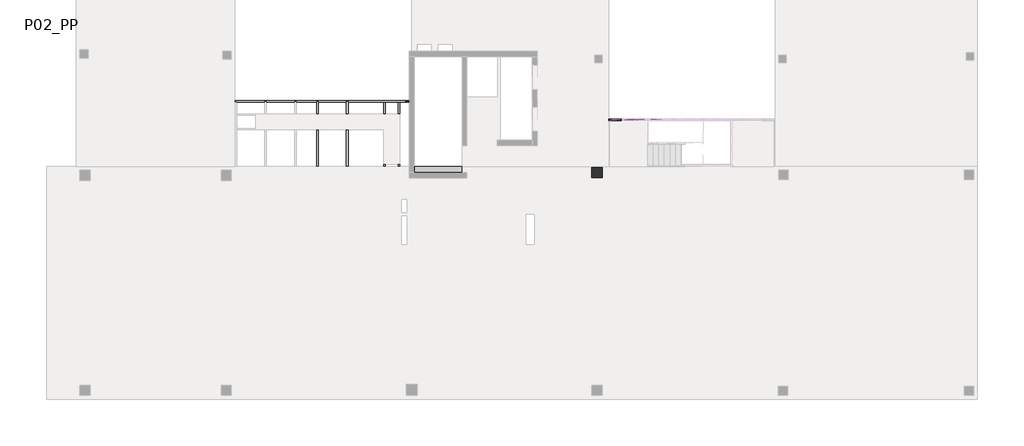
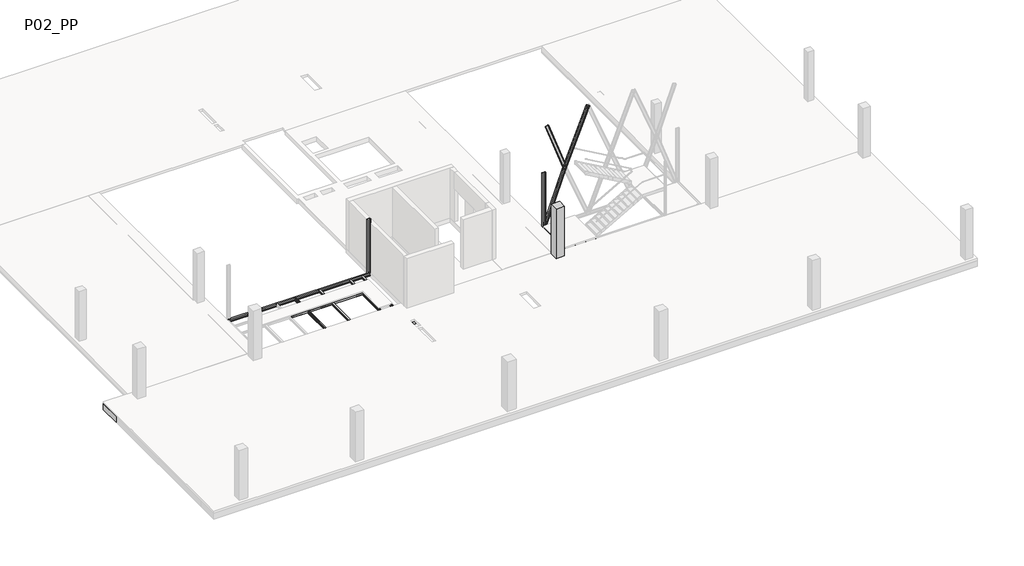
# One storey, part 2 of 7: 30 beams, 3 columns.
"""IFC4 building model written with IfcOpenShell, lengths in millimetres."""

from ifc_helpers import new_model, si_unit, frame, origin, place, context, project, spatial, polyline, circle_curve, ellipse_curve, outline, extrude, faceted_brep, transform, mapped, element, save
from ifc_brep_helpers import plane_surface, cylinder_surface, revolved_surface, advanced_brep
from components import ub_universal_beams_ipe_160x82_5295c27c, ub_universal_beams_ipe_200x100_3e5072df, ub_universal_beams_ipe_200x100_6cde27da, upn120x55_69f0bca1, upn120x55_efc8f615, upn120x55_2e91fe93, upn120x55_dd576345, upn200x75_a6df8eeb, upn_200x75_f929c6c0

model = new_model("IFC4")

# Units and contexts
model_context = context("Model", 3, world=origin())
ifc_project = project(units=[si_unit("LENGTHUNIT", "METRE", prefix="MILLI")], contexts=[model_context])

# Site, building, storey
site = spatial("IfcSite", under=ifc_project)
building = spatial("IfcBuilding", under=site)
storey = spatial("IfcBuildingStorey", under=building, Name="P02_PP", Elevation=14910.0)

# Beams
placement = place(None, origin())
element("IfcBeam", 1, ObjectType="M_Concrete-Rectangular Beam : 1500 x 550mm", at=placement, inside=storey, context=model_context, shape_type="Brep", body=[
    faceted_brep([(-10790.2146087, -4560.5861501, 14910.0), (-13390.3216429, -4560.5861501, 14910.0), (-13390.3216429, -4885.1039312, 14910.0), (-10790.2146087, -4885.1039312, 14910.0), (-33190.2931093, -6060.5861501, 14360.0), (-32490.2931093, -6060.5861501, 14360.0), (-31216.2708024, -6060.5861501, 14360.0), (-30816.2708024, -6060.5861501, 14360.0), (-29549.6041367, -6060.5861501, 14360.0), (-29149.6041367, -6060.5861501, 14360.0), (-27882.9374731, -6060.5861501, 14360.0), (-27482.9374731, -6060.5861501, 14360.0), (-26216.2708089, -6060.5861501, 14360.0), (-25816.2708089, -6060.5861501, 14360.0), (-24549.6041453, -6060.5861501, 14360.0), (-24149.6041453, -6060.5861501, 14360.0), (-22882.9374805, -6060.5861501, 14360.0), (-22482.9374805, -6060.5861501, 14360.0), (-21216.2708168, -6060.5861501, 14360.0), (-20816.2708168, -6060.5861501, 14360.0), (-19549.6041539, -6060.5861501, 14360.0), (-19149.6041539, -6060.5861501, 14360.0), (-17882.9374898, -6060.5861501, 14360.0), (-17482.9374898, -6060.5861501, 14360.0), (-16216.2708252, -6060.5861501, 14360.0), (-15816.2708252, -6060.5861501, 14360.0), (-14549.604161, -6060.5861501, 14360.0), (-14149.604161, -6060.5861501, 14360.0), (-12882.9374977, -6060.5861501, 14360.0), (-12482.9374977, -6060.5861501, 14360.0), (-11216.2708336, -6060.5861501, 14360.0), (-10816.2708336, -6060.5861501, 14360.0), (-9549.6041702, -6060.5861501, 14360.0), (-9149.6041702, -6060.5861501, 14360.0), (-7882.9375051, -6060.5861501, 14360.0), (-7482.9375051, -6060.5861501, 14360.0), (-6216.2708415, -6060.5861501, 14360.0), (-5816.2708415, -6060.5861501, 14360.0), (-4549.6041777, -6060.5861501, 14360.0), (-4149.6041777, -6060.5861501, 14360.0), (-2882.9375136, -6060.5861501, 14360.0), (-2482.9375136, -6060.5861501, 14360.0), (-1216.2708502, -6060.5861501, 14360.0), (-816.2708502, -6060.5861501, 14360.0), (450.3958139, -6060.5861501, 14360.0), (850.3958139, -6060.5861501, 14360.0), (2117.0624776, -6060.5861501, 14360.0), (2517.0624776, -6060.5861501, 14360.0), (3783.7291418, -6060.5861501, 14360.0), (4183.7291418, -6060.5861501, 14360.0), (5450.3958055, -6060.5861501, 14360.0), (5850.3958055, -6060.5861501, 14360.0), (7117.0624701, -6060.5861501, 14360.0), (7517.0624701, -6060.5861501, 14360.0), (8783.7291339, -6060.5861501, 14360.0), (9183.7291339, -6060.5861501, 14360.0), (10450.3957976, -6060.5861501, 14360.0), (10850.3957976, -6060.5861501, 14360.0), (12117.0624618, -6060.5861501, 14360.0), (12517.0624618, -6060.5861501, 14360.0), (13783.7291255, -6060.5861501, 14360.0), (14183.7291255, -6060.5861501, 14360.0), (15458.7687297, -6060.5861501, 14360.0), (15458.7687297, -6060.5861501, 14760.0), (14183.7291255, -6060.5861501, 14760.0), (13783.7291255, -6060.5861501, 14760.0), (12517.0624618, -6060.5861501, 14760.0), (12117.0624618, -6060.5861501, 14760.0), (10850.3957976, -6060.5861501, 14760.0), (10450.3957976, -6060.5861501, 14760.0), (9183.7291339, -6060.5861501, 14760.0), (8783.7291339, -6060.5861501, 14760.0), (7517.0624701, -6060.5861501, 14760.0), (7117.0624701, -6060.5861501, 14760.0), (5850.3958055, -6060.5861501, 14760.0), (5450.3958055, -6060.5861501, 14760.0), (4183.7291418, -6060.5861501, 14760.0), (3783.7291418, -6060.5861501, 14760.0), (2517.0624776, -6060.5861501, 14760.0), (2117.0624776, -6060.5861501, 14760.0), (850.3958139, -6060.5861501, 14760.0), (450.3958139, -6060.5861501, 14760.0), (-816.2708502, -6060.5861501, 14760.0), (-1216.2708502, -6060.5861501, 14760.0), (-2482.9375136, -6060.5861501, 14760.0), (-2882.9375136, -6060.5861501, 14760.0), (-4149.6041777, -6060.5861501, 14760.0), (-4549.6041777, -6060.5861501, 14760.0), (-5816.2708415, -6060.5861501, 14760.0), (-6216.2708415, -6060.5861501, 14760.0), (-7482.9375051, -6060.5861501, 14760.0), (-7882.9375051, -6060.5861501, 14760.0), (-9149.6041702, -6060.5861501, 14760.0), (-9549.6041702, -6060.5861501, 14760.0), (-10816.2708336, -6060.5861501, 14760.0), (-11216.2708336, -6060.5861501, 14760.0), (-12482.9374977, -6060.5861501, 14760.0), (-12882.9374977, -6060.5861501, 14760.0), (-14149.604161, -6060.5861501, 14760.0), (-14549.604161, -6060.5861501, 14760.0), (-15816.2708252, -6060.5861501, 14760.0), (-16216.2708252, -6060.5861501, 14760.0), (-17482.9374898, -6060.5861501, 14760.0), (-17882.9374898, -6060.5861501, 14760.0), (-19149.6041539, -6060.5861501, 14760.0), (-19549.6041539, -6060.5861501, 14760.0), (-20816.2708168, -6060.5861501, 14760.0), (-21216.2708168, -6060.5861501, 14760.0), (-22482.9374805, -6060.5861501, 14760.0), (-22882.9374805, -6060.5861501, 14760.0), (-24149.6041453, -6060.5861501, 14760.0), (-24549.6041453, -6060.5861501, 14760.0), (-25816.2708089, -6060.5861501, 14760.0), (-26216.2708089, -6060.5861501, 14760.0), (-27482.9374731, -6060.5861501, 14760.0), (-27882.9374731, -6060.5861501, 14760.0), (-29149.6041367, -6060.5861501, 14760.0), (-29549.6041367, -6060.5861501, 14760.0), (-30816.2708024, -6060.5861501, 14760.0), (-31216.2708024, -6060.5861501, 14760.0), (-32490.2931093, -6060.5861501, 14760.0), (-33190.2931093, -6060.5861501, 14760.0), (15458.7687297, -4560.5861501, 14360.0), (-33190.2931093, -4560.5861501, 14360.0), (-13640.3216429, -4560.5861501, 14360.0), (-13640.3216429, -5185.1039323, 14360.0), (-10540.3248425, -5185.1039323, 14360.0), (-10540.3248425, -4885.1039323, 14360.0), (-13390.3216429, -4885.1039323, 14360.0), (-13390.3216429, -4560.5861501, 14360.0), (-3266.6369021, -5185.398017, 14360.0), (-3266.636902, -4585.398017, 14360.0), (-3866.636902, -4585.3980169, 14360.0), (-3866.6369021, -5185.3980169, 14360.0), (-23241.1868439, -5360.5867081, 14360.0), (-23241.1868438, -4760.5867081, 14360.0), (-23841.1868438, -4760.5867081, 14360.0), (-23841.1868439, -5360.5867081, 14360.0), (-30791.2288146, -5360.5867093, 14360.0), (-30791.2288146, -4760.5867093, 14360.0), (-31391.2288146, -4760.5867093, 14360.0), (-31391.2288146, -5360.5867093, 14360.0), (6808.8308455, -5310.605447, 14360.0), (6808.8308456, -4760.605447, 14360.0), (6258.8308456, -4760.605447, 14360.0), (6258.8308455, -5310.605447, 14360.0), (-13390.3216429, -4560.5861501, 14610.0), (-13640.3216429, -4560.5861501, 14610.0), (-33190.2931093, -4560.5861501, 14760.0), (-13390.3216429, -4560.5861501, 14760.0), (-10790.2146087, -4560.5861501, 14760.0), (15458.7687297, -4560.5861501, 14760.0), (-3266.6369021, -5185.398017, 14610.0), (-3266.636902, -4585.398017, 14610.0), (-3866.6369021, -5185.3980169, 14610.0), (-3866.636902, -4585.3980169, 14610.0), (-23241.1868439, -5360.5867081, 14610.0), (-23241.1868438, -4760.5867081, 14610.0), (-23841.1868439, -5360.5867081, 14610.0), (-23841.1868438, -4760.5867081, 14610.0), (-30791.2288146, -5360.5867093, 14610.0), (-30791.2288146, -4760.5867093, 14610.0), (-31391.2288146, -5360.5867093, 14610.0), (-31391.2288146, -4760.5867093, 14610.0), (6808.8308455, -5310.605447, 14610.0), (6808.8308456, -4760.605447, 14610.0), (6258.8308455, -5310.605447, 14610.0), (6258.8308456, -4760.605447, 14610.0), (-10540.3248425, -4885.1039323, 14610.0), (-13390.3216429, -4885.1039323, 14610.0), (-13640.3216429, -5185.1039323, 14610.0), (-10540.3248425, -5185.1039323, 14610.0), (-13640.3216429, -4885.1039323, 14610.0), (-13390.3216429, -4885.1039312, 14760.0), (-10790.2146087, -4885.1039312, 14760.0)], [[[0, 1, 2, 3]], [[4, 5, 6, 7, 8, 9, 10, 11, 12, 13, 14, 15, 16, 17, 18, 19, 20, 21, 22, 23, 24, 25, 26, 27, 28, 29, 30, 31, 32, 33, 34, 35, 36, 37, 38, 39, 40, 41, 42, 43, 44, 45, 46, 47, 48, 49, 50, 51, 52, 53, 54, 55, 56, 57, 58, 59, 60, 61, 62, 63, 64, 65, 66, 67, 68, 69, 70, 71, 72, 73, 74, 75, 76, 77, 78, 79, 80, 81, 82, 83, 84, 85, 86, 87, 88, 89, 90, 91, 92, 93, 94, 95, 96, 97, 98, 99, 100, 101, 102, 103, 104, 105, 106, 107, 108, 109, 110, 111, 112, 113, 114, 115, 116, 117, 118, 119, 120, 121]], [[122, 62, 61, 60, 59, 58, 57, 56, 55, 54, 53, 52, 51, 50, 49, 48, 47, 46, 45, 44, 43, 42, 41, 40, 39, 38, 37, 36, 35, 34, 33, 32, 31, 30, 29, 28, 27, 26, 25, 24, 23, 22, 21, 20, 19, 18, 17, 16, 15, 14, 13, 12, 11, 10, 9, 8, 7, 6, 5, 4, 123, 124, 125, 126, 127, 128, 129], [130, 131, 132, 133], [134, 135, 136, 137], [138, 139, 140, 141], [142, 143, 144, 145]], [[122, 129, 146, 147, 124, 123, 148, 149, 1, 0, 150, 151]], [[62, 122, 151, 63]], [[123, 4, 121, 148]], [[152, 153, 131, 130]], [[154, 152, 130, 133]], [[155, 154, 133, 132]], [[153, 155, 132, 131]], [[153, 152, 154, 155]], [[156, 157, 135, 134]], [[158, 156, 134, 137]], [[159, 158, 137, 136]], [[157, 159, 136, 135]], [[157, 156, 158, 159]], [[160, 161, 139, 138]], [[162, 160, 138, 141]], [[163, 162, 141, 140]], [[161, 163, 140, 139]], [[161, 160, 162, 163]], [[164, 165, 143, 142]], [[166, 164, 142, 145]], [[167, 166, 145, 144]], [[165, 167, 144, 143]], [[165, 164, 166, 167]], [[127, 168, 169, 128]], [[170, 171, 126, 125]], [[171, 170, 172, 147, 146, 169, 168]], [[171, 168, 127, 126]], [[170, 125, 124, 147, 172]], [[169, 146, 129, 128]], [[173, 149, 148, 121, 120, 119, 118, 117, 116, 115, 114, 113, 112, 111, 110, 109, 108, 107, 106, 105, 104, 103, 102, 101, 100, 99, 98, 97, 96, 95, 94, 93, 92, 91, 90, 89, 88, 87, 86, 85, 84, 83, 82, 81, 80, 79, 78, 77, 76, 75, 74, 73, 72, 71, 70, 69, 68, 67, 66, 65, 64, 63, 151, 150, 174]], [[174, 150, 0, 3]], [[149, 173, 2, 1]], [[173, 174, 3, 2]]]),
])
element("IfcBeam", 2, ObjectType="M_Concrete-Rectangular Beam : 400 x 550mm", at=placement, inside=storey, context=model_context, shape_type="SweptSolid", body=[
    extrude(outline(polyline([(-14149.604161, -15610.5871866), (-14549.604161, -15610.5871866), (-14549.604161, -6060.5861501), (-14149.604161, -6060.5861501), (-14149.604161, -15610.5871866)])), frame((0.0, 0.0, 14360.0), z_axis=(0.0, 0.0, 1.0), x_axis=(1.0, 0.0, 0.0)), (0.0, 0.0, 1.0), 400.0),
])
element("IfcBeam", 3, ObjectType="M_Concrete-Rectangular Beam : 400 x 550mm", at=placement, inside=storey, context=model_context, shape_type="SweptSolid", body=[
    extrude(outline(polyline([(-12482.9374977, -15610.5871866), (-12882.9374977, -15610.5871866), (-12882.9374977, -6060.5861501), (-12482.9374977, -6060.5861501), (-12482.9374977, -15610.5871866)])), frame((0.0, 0.0, 14360.0), z_axis=(0.0, 0.0, 1.0), x_axis=(1.0, 0.0, 0.0)), (0.0, 0.0, 1.0), 400.0),
])
element("IfcBeam", 4, ObjectType="M_Concrete-Rectangular Beam : 400 x 550mm", at=placement, inside=storey, context=model_context, shape_type="SweptSolid", body=[
    extrude(outline(polyline([(-10816.2708336, -15610.5871866), (-11216.2708336, -15610.5871866), (-11216.2708336, -6060.5861501), (-10816.2708336, -6060.5861501), (-10816.2708336, -15610.5871866)])), frame((0.0, 0.0, 14360.0), z_axis=(0.0, 0.0, 1.0), x_axis=(1.0, 0.0, 0.0)), (0.0, 0.0, 1.0), 400.0),
])
element("IfcBeam", 5, ObjectType="M_Concrete-Rectangular Beam : 400 x 550mm", at=placement, inside=storey, context=model_context, shape_type="SweptSolid", body=[
    extrude(outline(polyline([(-9149.6041702, -15610.5871866), (-9549.6041702, -15610.5871866), (-9549.6041702, -6060.5861501), (-9149.6041702, -6060.5861501), (-9149.6041702, -15610.5871866)])), frame((0.0, 0.0, 14360.0), z_axis=(0.0, 0.0, 1.0), x_axis=(1.0, 0.0, 0.0)), (0.0, 0.0, 1.0), 400.0),
])
element("IfcBeam", 6, ObjectType="M_Concrete-Rectangular Beam : 400 x 550mm", at=placement, inside=storey, context=model_context, shape_type="SweptSolid", body=[
    extrude(outline(polyline([(-7482.9375051, -15610.5871866), (-7882.9375051, -15610.5871866), (-7882.9375051, -6060.5861501), (-7482.9375051, -6060.5861501), (-7482.9375051, -15610.5871866)])), frame((0.0, 0.0, 14360.0), z_axis=(0.0, 0.0, 1.0), x_axis=(1.0, 0.0, 0.0)), (0.0, 0.0, 1.0), 400.0),
])
element("IfcBeam", 7, ObjectType="M_Concrete-Rectangular Beam : 400 x 550mm", at=placement, inside=storey, context=model_context, shape_type="SweptSolid", body=[
    extrude(outline(polyline([(-5816.2708415, -15610.5871866), (-6216.2708415, -15610.5871866), (-6216.2708415, -6060.5861501), (-5816.2708415, -6060.5861501), (-5816.2708415, -15610.5871866)])), frame((0.0, 0.0, 14360.0), z_axis=(0.0, 0.0, 1.0), x_axis=(1.0, 0.0, 0.0)), (0.0, 0.0, 1.0), 400.0),
])
element("IfcBeam", 8, ObjectType="M_Concrete-Rectangular Beam : 400 x 550mm", at=placement, inside=storey, context=model_context, shape_type="SweptSolid", body=[
    extrude(outline(polyline([(-4149.6041777, -15610.5871866), (-4549.6041777, -15610.5871866), (-4549.6041777, -6060.5861501), (-4149.6041777, -6060.5861501), (-4149.6041777, -15610.5871866)])), frame((0.0, 0.0, 14360.0), z_axis=(0.0, 0.0, 1.0), x_axis=(1.0, 0.0, 0.0)), (0.0, 0.0, 1.0), 400.0),
])
element("IfcBeam", 9, ObjectType="M_Concrete-Rectangular Beam : 400 x 550mm", at=placement, inside=storey, context=model_context, shape_type="SweptSolid", body=[
    extrude(outline(polyline([(-2482.9375136, -15610.5871866), (-2882.9375136, -15610.5871866), (-2882.9375136, -6060.5861501), (-2482.9375136, -6060.5861501), (-2482.9375136, -15610.5871866)])), frame((0.0, 0.0, 14360.0), z_axis=(0.0, 0.0, 1.0), x_axis=(1.0, 0.0, 0.0)), (0.0, 0.0, 1.0), 400.0),
])
element("IfcBeam", 10, ObjectType="M_Concrete-Rectangular Beam : 400 x 550mm", at=placement, inside=storey, context=model_context, shape_type="SweptSolid", body=[
    extrude(outline(polyline([(-816.2708502, -15610.5871866), (-1216.2708502, -15610.5871866), (-1216.2708502, -6060.5861501), (-816.2708502, -6060.5861501), (-816.2708502, -15610.5871866)])), frame((0.0, 0.0, 14360.0), z_axis=(0.0, 0.0, 1.0), x_axis=(1.0, 0.0, 0.0)), (0.0, 0.0, 1.0), 400.0),
])
ub_universal_beams_ipe_160x82_shape = ub_universal_beams_ipe_160x82_5295c27c(model_context)
element("IfcBeam", 11, ObjectType="UB-Universal Beams : IPE 160x82", at=placement, inside=storey, context=model_context, shape_type="MappedRepresentation", body=[
    mapped(ub_universal_beams_ipe_160x82_shape, transform((-14190.4459331, -3192.6367352, 14830.0), x_axis=(0.0, 1.0, 0.0), y_axis=(-1.0, 0.0, 0.0), z_axis=(0.0, 0.0, 1.0))),
])
element("IfcBeam", 12, ObjectType="UB-Universal Beams : IPE 160x82", at=placement, inside=storey, context=model_context, shape_type="MappedRepresentation", body=[
    mapped(ub_universal_beams_ipe_160x82_shape, transform((-14990.4459326, -3192.6367225, 14830.0), x_axis=(0.0, 1.0, 0.0), y_axis=(-1.0, 0.0, 0.0), z_axis=(0.0, 0.0, 1.0))),
])
element("IfcBeam", 13, ObjectType="UB-Universal Beams : IPE 160x82", at=placement, inside=storey, context=model_context, shape_type="MappedRepresentation", body=[
    mapped(ub_universal_beams_ipe_160x82_shape, transform((-16990.4459316, -3192.6366908, 14830.0), x_axis=(0.0, 1.0, 0.0), y_axis=(-1.0, 0.0, 0.0), z_axis=(0.0, 0.0, 1.0))),
])
element("IfcBeam", 14, ObjectType="UB-Universal Beams : IPE 160x82", at=placement, inside=storey, context=model_context, shape_type="MappedRepresentation", body=[
    mapped(ub_universal_beams_ipe_160x82_shape, transform((-18590.4459308, -3192.6366654, 14830.0), x_axis=(0.0, 1.0, 0.0), y_axis=(-1.0, 0.0, 0.0), z_axis=(0.0, 0.0, 1.0))),
])
ub_universal_beams_ipe_200x100_shape = ub_universal_beams_ipe_200x100_3e5072df(model_context)
element("IfcBeam", 15, ObjectType="UB-Universal Beams : IPE 200x100", at=placement, inside=storey, context=model_context, shape_type="MappedRepresentation", body=[
    mapped(ub_universal_beams_ipe_200x100_shape, transform((-2811.4958562, -3692.7091099, 14810.0), x_axis=(0.0, 1.0, 0.0), y_axis=(-1.0, 0.0, 0.0), z_axis=(0.0, 0.0, 1.0))),
])
ub_universal_beams_ipe_200x100_2_shape = ub_universal_beams_ipe_200x100_6cde27da(model_context)
element("IfcBeam", 16, ObjectType="UB-Universal Beams : IPE 200x100", at=placement, inside=storey, context=model_context, shape_type="MappedRepresentation", body=[
    mapped(ub_universal_beams_ipe_200x100_2_shape, transform((-861.4958562, -3698.1725705, 14810.0), x_axis=(0.0, 1.0, 0.0), y_axis=(-1.0, 0.0, 0.0), z_axis=(0.0, 0.0, 1.0))),
])
element("IfcBeam", 17, ObjectType="UB-Universal Beams : IPE 200x100", at=placement, inside=storey, context=model_context, shape_type="MappedRepresentation", body=[
    mapped(ub_universal_beams_ipe_200x100_2_shape, transform((-1511.4958562, -3698.1725705, 14810.0), x_axis=(0.0, 1.0, 0.0), y_axis=(-1.0, 0.0, 0.0), z_axis=(0.0, 0.0, 1.0))),
])
element("IfcBeam", 18, ObjectType="UB-Universal Beams : IPE 200x100", at=placement, inside=storey, context=model_context, shape_type="MappedRepresentation", body=[
    mapped(ub_universal_beams_ipe_200x100_2_shape, transform((-2161.4958562, -3698.1725705, 14810.0), x_axis=(0.0, 1.0, 0.0), y_axis=(-1.0, 0.0, 0.0), z_axis=(0.0, 0.0, 1.0))),
])
upn120x55_shape = upn120x55_69f0bca1(model_context)
element("IfcBeam", 19, ObjectType="M_MC Shapes : UPN120x55", at=placement, inside=storey, context=model_context, shape_type="MappedRepresentation", body=[
    mapped(upn120x55_shape, transform((-14590.4459328, -1772.1875003, 14850.0), x_axis=(0.9999999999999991, -4.319868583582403e-08, 0.0), y_axis=(4.319868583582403e-08, 0.9999999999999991, 0.0), z_axis=(0.0, 0.0, 1.0))),
])
element("IfcBeam", 20, ObjectType="M_MC Shapes : UPN120x55", at=placement, inside=storey, context=model_context, shape_type="MappedRepresentation", body=[
    mapped(upn120x55_shape, transform((-14590.4459328, -2572.1874803, 14850.0), x_axis=(0.9999999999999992, -4.0441322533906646e-08, 0.0), y_axis=(4.0441322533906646e-08, 0.9999999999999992, 0.0), z_axis=(0.0, 0.0, 1.0))),
])
upn120x55_2_shape = upn120x55_efc8f615(model_context)
element("IfcBeam", 21, ObjectType="M_MC Shapes : UPN120x55", at=placement, inside=storey, context=model_context, shape_type="MappedRepresentation", body=[
    mapped(upn120x55_2_shape, transform((-15990.4459321, -2572.1874237, 14850.0), x_axis=(0.9999999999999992, -4.0441322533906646e-08, 0.0), y_axis=(4.0441322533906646e-08, 0.9999999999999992, 0.0), z_axis=(0.0, 0.0, 1.0))),
])
element("IfcBeam", 22, ObjectType="M_MC Shapes : UPN120x55", at=placement, inside=storey, context=model_context, shape_type="MappedRepresentation", body=[
    mapped(upn120x55_2_shape, transform((-15990.4459321, -1772.1874398, 14850.0), x_axis=(0.9999999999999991, -4.319868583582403e-08, 0.0), y_axis=(4.319868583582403e-08, 0.9999999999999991, 0.0), z_axis=(0.0, 0.0, 1.0))),
])
upn120x55_3_shape = upn120x55_2e91fe93(model_context)
element("IfcBeam", 23, ObjectType="M_MC Shapes : UPN120x55", at=placement, inside=storey, context=model_context, shape_type="MappedRepresentation", body=[
    mapped(upn120x55_3_shape, transform((-17790.4459312, -2572.1873509, 14850.0), x_axis=(0.9999999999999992, -4.0441322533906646e-08, 0.0), y_axis=(4.0441322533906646e-08, 0.9999999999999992, 0.0), z_axis=(0.0, 0.0, 1.0))),
])
element("IfcBeam", 24, ObjectType="M_MC Shapes : UPN120x55", at=placement, inside=storey, context=model_context, shape_type="MappedRepresentation", body=[
    mapped(upn120x55_3_shape, transform((-17790.4459312, -1772.1873621, 14850.0), x_axis=(0.9999999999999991, -4.319868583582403e-08, 0.0), y_axis=(4.319868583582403e-08, 0.9999999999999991, 0.0), z_axis=(0.0, 0.0, 1.0))),
])
upn120x55_4_shape = upn120x55_dd576345(model_context)
element("IfcBeam", 25, ObjectType="M_MC Shapes : UPN120x55", at=placement, inside=storey, context=model_context, shape_type="MappedRepresentation", body=[
    mapped(upn120x55_4_shape, transform((-19190.4459311, -2572.1872943, 14850.0), x_axis=(0.9999999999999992, -4.0441322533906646e-08, 0.0), y_axis=(4.0441322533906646e-08, 0.9999999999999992, 0.0), z_axis=(0.0, 0.0, 1.0))),
])
element("IfcBeam", 26, ObjectType="M_MC Shapes : UPN120x55", at=placement, inside=storey, context=model_context, shape_type="MappedRepresentation", body=[
    mapped(upn120x55_4_shape, transform((-19190.4459311, -1772.1873016, 14850.0), x_axis=(0.9999999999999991, -4.319868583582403e-08, 0.0), y_axis=(4.319868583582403e-08, 0.9999999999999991, 0.0), z_axis=(0.0, 0.0, 1.0))),
])
element("IfcBeam", 27, ObjectType="M_MC Shapes : UPN200x75", at=placement, inside=storey, context=model_context, shape_type="AdvancedBrep", body=[
    advanced_brep(
    [(164.370929, -1999.8318874, 22272.8267726), (-21.3244092, -1999.8318816, 22347.1049079), (-21.3244115, -2074.8318816, 22347.1049079), (-20.4194482, -2074.8318816, 22346.7429226), (-16.8018654, -2071.531259, 22345.2958895), (-7.4322566, -2010.9831275, 22341.5480467), (-0.1970911, -2004.3818823, 22338.6539806), (143.2436106, -2004.3818867, 22281.2776999), (150.4787758, -2010.9831324, 22278.3836338), (159.8483808, -2071.5312645, 22274.635791), (163.4659634, -2074.8318874, 22273.1887579), (164.3709267, -2074.8318874, 22272.8267726), (-1536.1663638, -1999.8318344, 18560.0000213), (-1320.7597715, -1999.8318411, 18560.0000213), (-1536.1663661, -2074.8318344, 18560.0000213), (-1535.1166087, -2074.8318344, 18560.0000213), (-1530.9202127, -2071.5312118, 18560.0000213), (-1520.0514668, -2010.9830804, 18560.0000213), (-1511.6586748, -2004.3818352, 18560.0000213), (-1345.2674608, -2004.3818403, 18560.0000213), (-1336.8746692, -2010.9830861, 18560.0000213), (-1326.005927, -2071.5312182, 18560.0000213), (-1321.8095312, -2074.8318411, 18560.0000213), (-1320.7597738, -2074.8318411, 18560.0000213)],
    [
        (0, 1),
        (1, 2),
        (2, 3),
        (3, 4, circle_curve(frame((-20.4194481, -2070.8818816, 22346.7429226), z_axis=(0.37139067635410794, -1.1573272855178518e-08, 0.9284766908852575), x_axis=(-3.1161987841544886e-08, -0.9999999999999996, 0.0)), 3.95)),
        (4, 5),
        (5, 6, circle_curve(frame((-0.1970913, -2012.2818823, 22338.6539806), z_axis=(-0.37139067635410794, 1.1573272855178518e-08, -0.9284766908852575), x_axis=(-3.1161987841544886e-08, -0.9999999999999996, 0.0)), 7.9)),
        (6, 7),
        (7, 8, circle_curve(frame((143.2436104, -2012.2818867, 22281.2776999), z_axis=(-0.37139067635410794, 1.1573272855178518e-08, -0.9284766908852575), x_axis=(-3.1161987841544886e-08, -0.9999999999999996, 0.0)), 7.9)),
        (8, 9),
        (9, 10, circle_curve(frame((163.4659635, -2070.8818874, 22273.1887579), z_axis=(0.37139067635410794, -1.1573272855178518e-08, 0.9284766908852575), x_axis=(-3.1161987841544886e-08, -0.9999999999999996, 0.0)), 3.95)),
        (10, 11),
        (11, 0),
        (12, 1),
        (0, 13),
        (13, 12),
        (14, 2),
        (12, 14),
        (15, 3),
        (14, 15),
        (16, 4),
        (15, 16, ellipse_curve(frame((-1535.1166086, -2070.8818344, 18560.0000213), z_axis=(-1.7127276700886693e-10, 0.0, 1.0), x_axis=(-0.9999999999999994, 3.116199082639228e-08, -1.7127279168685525e-10)), 4.2542802, 3.95)),
        (16, 17),
        (17, 5),
        (18, 6),
        (17, 18, ellipse_curve(frame((-1511.658675, -2012.2818352, 18560.0000213), z_axis=(1.7127276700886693e-10, 0.0, -1.0), x_axis=(0.9999999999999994, -3.116199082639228e-08, 1.7127279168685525e-10)), 8.5085604, 7.9)),
        (19, 7),
        (18, 19),
        (20, 8),
        (19, 20, ellipse_curve(frame((-1345.267461, -2012.2818403, 18560.0000213), z_axis=(1.7127276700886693e-10, 0.0, -1.0), x_axis=(0.9999999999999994, -3.116199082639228e-08, 1.7127279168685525e-10)), 8.5085604, 7.9)),
        (20, 21),
        (21, 9),
        (22, 10),
        (21, 22, ellipse_curve(frame((-1321.8095311, -2070.8818411, 18560.0000213), z_axis=(-1.7127276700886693e-10, 0.0, 1.0), x_axis=(-0.9999999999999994, 3.116199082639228e-08, -1.7127279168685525e-10)), 4.2542802, 3.95)),
        (23, 11),
        (22, 23),
        (23, 13),
    ],
    [
        plane_surface(frame((71.5232596, -2010.7318845, 22309.9658402), z_axis=(0.3713906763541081, -1.1573272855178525e-08, 0.9284766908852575), x_axis=(0.9284766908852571, -2.8933178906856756e-08, -0.3713906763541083))),
        plane_surface(frame((-1320.7461076, -1999.8318411, 18560.0341811), z_axis=(3.1161987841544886e-08, 0.9999999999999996, 0.0), x_axis=(0.37139067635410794, -1.1573272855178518e-08, 0.9284766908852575))),
        plane_surface(frame((-1506.4414458, -1999.8318353, 18634.3123164), z_axis=(-0.9284766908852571, 2.8933178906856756e-08, 0.3713906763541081), x_axis=(0.37139067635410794, -1.1573272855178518e-08, 0.9284766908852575))),
        plane_surface(frame((-1506.4414481, -2074.8318353, 18634.3123164), z_axis=(-3.1161987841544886e-08, -0.9999999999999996, 0.0), x_axis=(0.37139067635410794, -1.1573272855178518e-08, 0.9284766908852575))),
        cylinder_surface(frame((-1505.5364847, -2070.8818353, 18633.9503311), z_axis=(-0.37139067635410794, 1.1573272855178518e-08, -0.9284766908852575), x_axis=(-3.1161987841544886e-08, -0.9999999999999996, 0.0)), 3.95),
        plane_surface(frame((-1499.1064816, -2053.3568355, 18631.37833), z_axis=(0.9158437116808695, -0.16439933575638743, -0.36633748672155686), x_axis=(0.37139067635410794, -1.1573272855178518e-08, 0.9284766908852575))),
        revolved_surface(polyline([(-0.19709154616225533, -2020.1818822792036, 22338.653980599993), (-1512.8322698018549, -2020.1818351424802, 18557.06603496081)]), (-1485.3141279, -2012.281836, 18625.8613891), (0.37139067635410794, -1.1573272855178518e-08, 0.9284766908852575)),
        plane_surface(frame((-1485.3141277, -2004.381836, 18625.8613891), z_axis=(-3.1161987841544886e-08, -0.9999999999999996, 0.0), x_axis=(0.37139067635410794, -1.1573272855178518e-08, 0.9284766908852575))),
        revolved_surface(polyline([(143.24361016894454, -2020.1818866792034, 22281.27769993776), (-1346.4410558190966, -2020.1818402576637, 18557.06603496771)]), (-1341.8734262, -2012.2818404, 18568.4851084), (0.37139067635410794, -1.1573272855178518e-08, 0.9284766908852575)),
        plane_surface(frame((-1328.0810751, -2053.3568409, 18562.9681674), z_axis=(-0.915843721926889, -0.16439927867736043, 0.3663374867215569), x_axis=(0.37139067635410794, -1.1573272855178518e-08, 0.9284766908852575))),
        cylinder_surface(frame((-1321.6510731, -2070.8818411, 18560.3961664), z_axis=(-0.37139067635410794, 1.1573272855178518e-08, -0.9284766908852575), x_axis=(-3.1161987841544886e-08, -0.9999999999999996, 0.0)), 3.95),
        plane_surface(frame((-1321.6510732, -2074.8318411, 18560.3961664), z_axis=(-3.1161987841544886e-08, -0.9999999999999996, 0.0), x_axis=(0.37139067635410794, -1.1573272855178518e-08, 0.9284766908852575))),
        plane_surface(frame((-1320.7461099, -2074.8318411, 18560.0341811), z_axis=(0.9284766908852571, -2.8933178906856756e-08, -0.3713906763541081), x_axis=(0.37139067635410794, -1.1573272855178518e-08, 0.9284766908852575))),
        plane_surface(frame((-1320.7597718, -2010.7318411, 18560.0000213), z_axis=(1.7127276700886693e-10, 0.0, -1.0), x_axis=(1.0, 0.0, 1.7127276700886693e-10))),
    ],
    [
        (0, [[1, 2, 3, 4, 5, 6, 7, 8, 9, 10, 11, 12]]),
        (1, [[13, -1, 14, 15]]),
        (2, [[16, -2, -13, 17]]),
        (3, [[18, -3, -16, 19]]),
        (4, [[20, -4, -18, 21]]),
        (5, [[22, 23, -5, -20]]),
        (6, [[24, -6, -23, 25]]),
        (7, [[26, -7, -24, 27]]),
        (8, [[28, -8, -26, 29]]),
        (9, [[30, 31, -9, -28]]),
        (10, [[32, -10, -31, 33]]),
        (11, [[34, -11, -32, 35]]),
        (12, [[-14, -12, -34, 36]]),
        (13, [[-36, -35, -33, -30, -29, -27, -25, -22, -21, -19, -17, -15]]),
    ],
),
])
element("IfcBeam", 28, ObjectType="M_MC Shapes : UPN200x75", at=placement, inside=storey, context=model_context, shape_type="AdvancedBrep", body=[
    advanced_brep(
    [(-2713.6099517, -1999.8318823, 21774.4635559), (-2713.6099491, -2074.8318823, 21774.4635559), (-2712.6948496, -2074.8318823, 21774.7990924), (-2709.0367474, -2071.5312595, 21776.1403965), (-2699.5621961, -2010.9831273, 21779.6143995), (-2692.2459917, -2004.3818816, 21782.2970078), (-2547.1986482, -2004.3818766, 21835.4810338), (-2539.8824434, -2010.9831219, 21838.1636421), (-2530.4078879, -2071.5312533, 21841.637645), (-2526.7497855, -2074.8318759, 21842.9789492), (-2525.8346859, -2074.8318759, 21843.3144857), (-2525.8346885, -1999.8318759, 21843.3144857), (-1321.9527191, -1999.8318347, 18560.0000238), (-1534.9733232, -1999.831842, 18560.0000238), (-1321.9527166, -2074.8318347, 18560.0000238), (-1322.9908461, -2074.8318347, 18560.0000238), (-1327.1407601, -2071.5312121, 18560.0000238), (-1337.8891166, -2010.9830807, 18560.0000238), (-1346.1889445, -2004.3818355, 18560.0000238), (-1510.7370976, -2004.3818411, 18560.0000238), (-1519.036925, -2010.9830869, 18560.0000238), (-1529.7852774, -2071.5312191, 18560.0000238), (-1533.9351911, -2074.8318419, 18560.0000238), (-1534.9733207, -2074.831842, 18560.0000238)],
    [
        (0, 1),
        (1, 2),
        (2, 3, circle_curve(frame((-2712.6948497, -2070.8818823, 21774.7990924), z_axis=(-0.3442546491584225, -1.1791242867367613e-08, 0.938876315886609), x_axis=(3.425151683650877e-08, -0.9999999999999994, 0.0)), 3.95)),
        (3, 4),
        (4, 5, circle_curve(frame((-2692.2459915, -2012.2818816, 21782.2970078), z_axis=(0.3442546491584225, 1.1791242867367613e-08, -0.938876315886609), x_axis=(3.425151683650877e-08, -0.9999999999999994, 0.0)), 7.9)),
        (5, 6),
        (6, 7, circle_curve(frame((-2547.1986479, -2012.2818766, 21835.4810338), z_axis=(0.3442546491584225, 1.1791242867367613e-08, -0.938876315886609), x_axis=(3.425151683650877e-08, -0.9999999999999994, 0.0)), 7.9)),
        (7, 8),
        (8, 9, circle_curve(frame((-2526.7497856, -2070.8818759, 21842.9789492), z_axis=(-0.3442546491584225, -1.1791242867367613e-08, 0.938876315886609), x_axis=(3.425151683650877e-08, -0.9999999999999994, 0.0)), 3.95)),
        (9, 10),
        (10, 11),
        (11, 0),
        (12, 13),
        (13, 0),
        (11, 12),
        (14, 12),
        (10, 14),
        (15, 14),
        (9, 15),
        (16, 15, ellipse_curve(frame((-1322.9908463, -2070.8818347, 18560.0000238), z_axis=(-7.479702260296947e-11, 0.0, 1.0), x_axis=(0.9999999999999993, 3.4251513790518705e-08, 7.4796900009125e-11)), 4.2071569, 3.95)),
        (8, 16),
        (7, 17),
        (17, 16),
        (18, 17, ellipse_curve(frame((-1346.1889442, -2012.2818355, 18560.0000238), z_axis=(7.479702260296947e-11, 0.0, -1.0), x_axis=(-0.9999999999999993, -3.4251513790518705e-08, -7.4796900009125e-11)), 8.4143139, 7.9)),
        (6, 18),
        (19, 18),
        (5, 19),
        (20, 19, ellipse_curve(frame((-1510.7370973, -2012.2818411, 18560.0000238), z_axis=(7.479702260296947e-11, 0.0, -1.0), x_axis=(-0.9999999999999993, -3.4251513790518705e-08, -7.4796900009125e-11)), 8.4143139, 7.9)),
        (4, 20),
        (3, 21),
        (21, 20),
        (22, 21, ellipse_curve(frame((-1533.9351912, -2070.8818419, 18560.0000238), z_axis=(-7.479702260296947e-11, 0.0, 1.0), x_axis=(0.9999999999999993, 3.4251513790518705e-08, 7.4796900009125e-11)), 4.2071569, 3.95)),
        (2, 22),
        (23, 22),
        (1, 23),
        (13, 23),
    ],
    [
        plane_surface(frame((-2619.7223197, -2010.7318791, 21808.8890208), z_axis=(-0.3442546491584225, -1.1791242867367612e-08, 0.9388763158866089), x_axis=(-0.9388763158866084, -3.215793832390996e-08, -0.3442546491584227))),
        plane_surface(frame((-1534.9853094, -1999.831842, 18560.0327132), z_axis=(-3.425151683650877e-08, 0.9999999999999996, 0.0), x_axis=(-0.3442546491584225, -1.1791242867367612e-08, 0.9388763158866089))),
        plane_surface(frame((-1347.2100462, -1999.8318355, 18628.883643), z_axis=(0.9388763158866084, 3.215793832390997e-08, 0.34425464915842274), x_axis=(-0.3442546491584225, -1.1791242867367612e-08, 0.9388763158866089))),
        plane_surface(frame((-1347.2100436, -2074.8318355, 18628.883643), z_axis=(3.425151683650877e-08, -0.9999999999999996, 0.0), x_axis=(-0.3442546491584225, -1.1791242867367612e-08, 0.9388763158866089))),
        cylinder_surface(frame((-1348.1251433, -2070.8818356, 18628.5481065), z_axis=(0.34425464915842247, 1.179124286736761e-08, -0.9388763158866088), x_axis=(3.425151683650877e-08, -0.9999999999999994, 0.0)), 3.95),
        plane_surface(frame((-1354.6271672, -2053.3568358, 18626.1640313), z_axis=(-0.926101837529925, -0.1643993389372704, -0.33957067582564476), x_axis=(-0.3442546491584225, -1.1791242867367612e-08, 0.9388763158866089))),
        revolved_surface(polyline([(-2547.1986476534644, -2020.181876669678, 21835.481033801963), (-1345.191753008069, -2020.1818354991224, 18557.28041204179)]), (-1368.5740056, -2012.2818363, 18621.0501911), (-0.34425464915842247, -1.179124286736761e-08, 0.9388763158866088)),
        plane_surface(frame((-1368.5740058, -2004.3818363, 18621.0501911), z_axis=(3.425151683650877e-08, -0.9999999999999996, 0.0), x_axis=(-0.3442546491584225, -1.1791242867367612e-08, 0.9388763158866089))),
        revolved_surface(polyline([(-2692.245991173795, -2020.1818815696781, 21782.297007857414), (-1509.7399060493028, -2020.1818410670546, 18557.280412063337)]), (-1513.6213491, -2012.2818412, 18567.8661651), (-0.34425464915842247, -1.179124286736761e-08, 0.9388763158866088)),
        plane_surface(frame((-1527.5681846, -2053.3568417, 18562.7523249), z_axis=(0.9261018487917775, -0.16439927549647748, 0.3395706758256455), x_axis=(-0.3442546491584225, -1.1791242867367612e-08, 0.9388763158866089))),
        cylinder_surface(frame((-1534.0702074, -2070.8818419, 18560.3682497), z_axis=(0.34425464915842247, 1.179124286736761e-08, -0.9388763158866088), x_axis=(3.425151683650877e-08, -0.9999999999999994, 0.0)), 3.95),
        plane_surface(frame((-1534.0702073, -2074.8318419, 18560.3682497), z_axis=(3.425151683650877e-08, -0.9999999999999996, 0.0), x_axis=(-0.3442546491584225, -1.1791242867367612e-08, 0.9388763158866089))),
        plane_surface(frame((-1534.9853068, -2074.831842, 18560.0327132), z_axis=(-0.9388763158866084, -3.215793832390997e-08, -0.34425464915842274), x_axis=(-0.3442546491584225, -1.1791242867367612e-08, 0.9388763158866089))),
        plane_surface(frame((-1534.9733229, -2010.731842, 18560.0000238), z_axis=(7.479702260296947e-11, 0.0, -1.0), x_axis=(1.0, 0.0, 7.479702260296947e-11))),
    ],
    [
        (0, [[1, 2, 3, 4, 5, 6, 7, 8, 9, 10, 11, 12]]),
        (1, [[13, 14, -12, 15]]),
        (2, [[16, -15, -11, 17]]),
        (3, [[18, -17, -10, 19]]),
        (4, [[20, -19, -9, 21]]),
        (5, [[-21, -8, 22, 23]]),
        (6, [[24, -22, -7, 25]]),
        (7, [[26, -25, -6, 27]]),
        (8, [[28, -27, -5, 29]]),
        (9, [[-29, -4, 30, 31]]),
        (10, [[32, -30, -3, 33]]),
        (11, [[34, -33, -2, 35]]),
        (12, [[36, -35, -1, -14]]),
        (13, [[-13, -16, -18, -20, -23, -24, -26, -28, -31, -32, -34, -36]]),
    ],
),
])
element("IfcBeam", 29, ObjectType="M_MC Shapes : UPN200x75", at=placement, inside=storey, context=model_context, shape_type="AdvancedBrep", body=[
    advanced_brep(
    [(-2854.3756859, -1999.8318872, 14961.6299422), (-2666.6004227, -1999.8318807, 14892.7790124), (-2666.6004201, -2074.8318807, 14892.7790124), (-2667.5155196, -2074.8318808, 14893.1145489), (-2671.173622, -2071.5312582, 14894.4558531), (-2680.6481775, -2010.9831267, 14897.929856), (-2687.9643823, -2004.3818815, 14900.6124643), (-2833.0117259, -2004.3818864, 14953.7964903), (-2840.3279302, -2010.9831322, 14956.4790986), (-2849.8024816, -2071.5312643, 14959.9531015), (-2853.4605838, -2074.8318871, 14961.2944057), (-2854.3756833, -2074.8318872, 14961.6299422), (-1321.9527191, -1999.8318347, 18560.0000238), (-1534.9733232, -1999.831842, 18560.0000238), (-1321.9527166, -2074.8318347, 18560.0000238), (-1322.9908461, -2074.8318347, 18560.0000238), (-1327.1407601, -2071.5312121, 18560.0000238), (-1337.8891166, -2010.9830807, 18560.0000238), (-1346.1889445, -2004.3818355, 18560.0000238), (-1510.7370976, -2004.3818411, 18560.0000238), (-1519.036925, -2010.9830869, 18560.0000238), (-1529.7852774, -2071.5312191, 18560.0000238), (-1533.9351911, -2074.8318419, 18560.0000238), (-1534.9733207, -2074.831842, 18560.0000238)],
    [
        (0, 1),
        (1, 2),
        (2, 3),
        (3, 4, circle_curve(frame((-2667.5155198, -2070.8818808, 14893.1145489), z_axis=(-0.3442546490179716, -1.179124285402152e-08, -0.9388763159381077), x_axis=(3.425151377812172e-08, -0.9999999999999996, 0.0)), 3.95)),
        (4, 5),
        (5, 6, circle_curve(frame((-2687.9643821, -2012.2818815, 14900.6124643), z_axis=(0.3442546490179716, 1.179124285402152e-08, 0.9388763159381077), x_axis=(3.425151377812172e-08, -0.9999999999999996, 0.0)), 7.9)),
        (6, 7),
        (7, 8, circle_curve(frame((-2833.0117256, -2012.2818864, 14953.7964903), z_axis=(0.3442546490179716, 1.179124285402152e-08, 0.9388763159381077), x_axis=(3.425151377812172e-08, -0.9999999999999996, 0.0)), 7.9)),
        (8, 9),
        (9, 10, circle_curve(frame((-2853.4605839, -2070.8818871, 14961.2944057), z_axis=(-0.3442546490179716, -1.179124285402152e-08, -0.9388763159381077), x_axis=(3.425151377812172e-08, -0.9999999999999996, 0.0)), 3.95)),
        (10, 11),
        (11, 0),
        (12, 1),
        (0, 13),
        (13, 12),
        (14, 2),
        (12, 14),
        (15, 3),
        (14, 15),
        (16, 4),
        (15, 16, ellipse_curve(frame((-1322.9908463, -2070.8818347, 18560.0000238), z_axis=(7.479702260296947e-11, 0.0, -1.0), x_axis=(0.9999999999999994, 3.4251513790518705e-08, 7.479690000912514e-11)), 4.2071569, 3.95)),
        (16, 17),
        (17, 5),
        (18, 6),
        (17, 18, ellipse_curve(frame((-1346.1889442, -2012.2818355, 18560.0000238), z_axis=(-7.479702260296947e-11, 0.0, 1.0), x_axis=(-0.9999999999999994, -3.4251513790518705e-08, -7.479690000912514e-11)), 8.4143139, 7.9)),
        (19, 7),
        (18, 19),
        (20, 8),
        (19, 20, ellipse_curve(frame((-1510.7370973, -2012.2818411, 18560.0000238), z_axis=(-7.479702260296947e-11, 0.0, 1.0), x_axis=(-0.9999999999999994, -3.4251513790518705e-08, -7.479690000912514e-11)), 8.4143139, 7.9)),
        (20, 21),
        (21, 9),
        (22, 10),
        (21, 22, ellipse_curve(frame((-1533.9351912, -2070.8818419, 18560.0000238), z_axis=(7.479702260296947e-11, 0.0, -1.0), x_axis=(0.9999999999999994, 3.4251513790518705e-08, 7.479690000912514e-11)), 4.2071569, 3.95)),
        (23, 11),
        (22, 23),
        (23, 13),
    ],
    [
        plane_surface(frame((-2760.4880539, -2010.731884, 14927.2044773), z_axis=(-0.34425464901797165, -1.1791242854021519e-08, -0.9388763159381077), x_axis=(-0.938876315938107, -3.2157935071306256e-08, 0.3442546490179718))),
        plane_surface(frame((-1534.985318, -1999.831842, 18559.9673107), z_axis=(-3.425151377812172e-08, 0.9999999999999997, 0.0), x_axis=(-0.3442546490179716, -1.1791242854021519e-08, -0.9388763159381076))),
        plane_surface(frame((-1347.2100548, -1999.8318355, 18491.1163809), z_axis=(0.9388763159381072, 3.2157935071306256e-08, -0.3442546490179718), x_axis=(-0.3442546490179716, -1.1791242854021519e-08, -0.9388763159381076))),
        plane_surface(frame((-1347.2100523, -2074.8318355, 18491.1163809), z_axis=(3.425151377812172e-08, -0.9999999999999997, 0.0), x_axis=(-0.3442546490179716, -1.1791242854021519e-08, -0.9388763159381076))),
        cylinder_surface(frame((-1348.1251519, -2070.8818356, 18491.4519174), z_axis=(0.34425464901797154, 1.1791242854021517e-08, 0.9388763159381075), x_axis=(3.425151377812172e-08, -0.9999999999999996, 0.0)), 3.95),
        plane_surface(frame((-1354.6271759, -2053.3568358, 18493.8359926), z_axis=(-0.9261018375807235, -0.16439933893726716, 0.339570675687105), x_axis=(-0.3442546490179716, -1.1791242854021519e-08, -0.9388763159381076))),
        revolved_surface(polyline([(-2687.964381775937, -2020.1818814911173, 14900.612464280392), (-1345.1917529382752, -2020.1818354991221, 18562.71963553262)]), (-1368.5740142, -2012.2818363, 18498.9498328), (-0.34425464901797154, -1.1791242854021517e-08, -0.9388763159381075)),
        plane_surface(frame((-1368.5740145, -2004.3818363, 18498.9498328), z_axis=(3.425151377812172e-08, -0.9999999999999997, 0.0), x_axis=(-0.3442546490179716, -1.1791242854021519e-08, -0.9388763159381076))),
        revolved_surface(polyline([(-2833.011725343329, -2020.1818863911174, 14953.796490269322), (-1509.7399060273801, -2020.1818410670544, 18562.719635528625)]), (-1513.6213578, -2012.2818412, 18552.1338587), (-0.34425464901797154, -1.1791242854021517e-08, -0.9388763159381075)),
        plane_surface(frame((-1527.5681933, -2053.3568417, 18557.2476989), z_axis=(0.9261018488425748, -0.1643992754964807, -0.3395706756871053), x_axis=(-0.3442546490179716, -1.1791242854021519e-08, -0.9388763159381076))),
        cylinder_surface(frame((-1534.0702161, -2070.8818419, 18559.6317742), z_axis=(0.34425464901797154, 1.1791242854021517e-08, 0.9388763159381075), x_axis=(3.425151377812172e-08, -0.9999999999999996, 0.0)), 3.95),
        plane_surface(frame((-1534.0702159, -2074.8318419, 18559.6317742), z_axis=(3.425151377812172e-08, -0.9999999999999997, 0.0), x_axis=(-0.3442546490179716, -1.1791242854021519e-08, -0.9388763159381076))),
        plane_surface(frame((-1534.9853155, -2074.831842, 18559.9673107), z_axis=(-0.9388763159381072, -3.2157935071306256e-08, 0.3442546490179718), x_axis=(-0.3442546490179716, -1.1791242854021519e-08, -0.9388763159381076))),
        plane_surface(frame((-1321.9527188, -2010.7318347, 18560.0000238), z_axis=(-7.479702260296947e-11, 0.0, 1.0), x_axis=(-1.0, 0.0, -7.479702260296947e-11))),
    ],
    [
        (0, [[1, 2, 3, 4, 5, 6, 7, 8, 9, 10, 11, 12]]),
        (1, [[13, -1, 14, 15]]),
        (2, [[16, -2, -13, 17]]),
        (3, [[18, -3, -16, 19]]),
        (4, [[20, -4, -18, 21]]),
        (5, [[22, 23, -5, -20]]),
        (6, [[24, -6, -23, 25]]),
        (7, [[26, -7, -24, 27]]),
        (8, [[28, -8, -26, 29]]),
        (9, [[30, 31, -9, -28]]),
        (10, [[32, -10, -31, 33]]),
        (11, [[34, -11, -32, 35]]),
        (12, [[-14, -12, -34, 36]]),
        (13, [[-36, -35, -33, -30, -29, -27, -25, -22, -21, -19, -17, -15]]),
    ],
),
])
upn200x75_shape = upn200x75_a6df8eeb(model_context)
element("IfcBeam", 30, ObjectType="M_MC Shapes : UPN200x75", at=placement, inside=storey, context=model_context, shape_type="MappedRepresentation", body=[
    mapped(upn200x75_shape, transform((-18453.2517869, -1021.4871854, 14810.0), x_axis=(0.9999999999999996, -3.175673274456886e-08, 0.0), y_axis=(3.175673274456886e-08, 0.9999999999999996, 0.0), z_axis=(0.0, 0.0, 1.0))),
])

# Columns
element("IfcColumn", 31, ObjectType="Concrete-Rectangular-Column : Pilar_Rectangular-Formigo-550x550", at=placement, inside=storey, context=model_context, shape_type="Brep", body=[
    faceted_brep([(-3266.6336945, -4610.398017, 14910.0), (-3266.6336939, -5160.398017, 14910.0), (-3816.6336939, -5160.3980176, 14910.0), (-3816.6336945, -4610.3980176, 14910.0), (-3266.6336945, -4610.398017, 18360.0), (-3266.6336945, -4610.5861498, 18360.0), (-3266.6336939, -5160.398017, 18360.0), (-3266.6336939, -5160.398017, 18110.0), (-3816.6336939, -5160.3980176, 18360.0), (-3816.6336939, -5160.3980176, 18110.0), (-3816.6336945, -4610.5861498, 18360.0), (-3816.6336945, -4610.3980176, 18360.0)], [[[0, 1, 2, 3]], [[4, 5, 6, 7, 1, 0]], [[6, 8, 9, 2, 1, 7]], [[8, 10, 11, 3, 2, 9]], [[11, 4, 0, 3]], [[4, 11, 10, 8, 6, 5]]]),
])
upn_200x75_shape = upn_200x75_f929c6c0(model_context)
element("IfcColumn", 32, ObjectType="M_MC Shapes-Column : UPN 200x75", at=placement, inside=storey, context=model_context, shape_type="MappedRepresentation", body=[
    mapped(upn_200x75_shape, transform((-13740.3216426, -1036.9870429, 0.0), x_axis=(-3.122957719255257e-08, -0.9999999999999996, 0.0), y_axis=(0.9999999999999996, -3.122957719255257e-08, 0.0), z_axis=(0.0, 0.0, 1.0))),
])
element("IfcColumn", 33, ObjectType="M_MC Shapes-Column : UPN 200x75", at=placement, inside=storey, context=model_context, shape_type="MappedRepresentation", body=[
    mapped(upn_200x75_shape, transform((-2813.6343075, -2026.2316122, 0.0), x_axis=(-3.122957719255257e-08, -0.9999999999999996, 0.0), y_axis=(0.9999999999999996, -3.122957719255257e-08, 0.0), z_axis=(0.0, 0.0, 1.0))),
])

save(model, "model.ifc")
